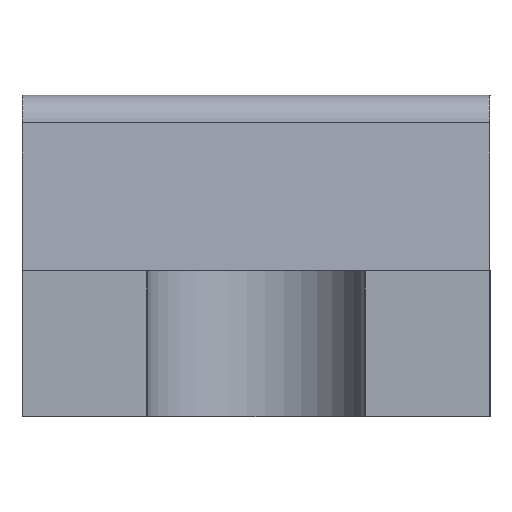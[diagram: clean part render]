
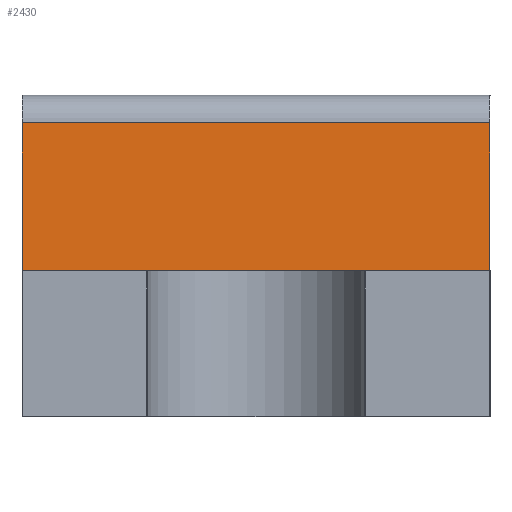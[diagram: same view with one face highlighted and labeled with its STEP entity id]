
A CAD part, left-side view. The second image highlights one B-rep face of the part: STEP entity #2430.
In plain terms, the highlighted planar face has unit normal (-0.999, 0, 0.052).
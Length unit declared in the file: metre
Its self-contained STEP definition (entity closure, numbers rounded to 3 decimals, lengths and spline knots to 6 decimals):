
#156=PLANE('',#2643);
#277=LINE('',#3418,#548);
#285=LINE('',#3440,#556);
#286=LINE('',#3444,#557);
#287=LINE('',#3445,#558);
#548=VECTOR('',#2862,1.);
#556=VECTOR('',#2884,1.);
#557=VECTOR('',#2889,1.);
#558=VECTOR('',#2890,1.);
#903=ORIENTED_EDGE('',*,*,#1556,.F.);
#904=ORIENTED_EDGE('',*,*,#1543,.F.);
#905=ORIENTED_EDGE('',*,*,#1557,.T.);
#906=ORIENTED_EDGE('',*,*,#1554,.T.);
#1543=EDGE_CURVE('',#1881,#1879,#277,.T.);
#1554=EDGE_CURVE('',#1889,#1888,#285,.T.);
#1556=EDGE_CURVE('',#1879,#1888,#286,.T.);
#1557=EDGE_CURVE('',#1881,#1889,#287,.T.);
#1879=VERTEX_POINT('',#3413);
#1881=VERTEX_POINT('',#3417);
#1888=VERTEX_POINT('',#3439);
#1889=VERTEX_POINT('',#3441);
#2134=EDGE_LOOP('',(#903,#904,#905,#906));
#2275=FACE_BOUND('',#2134,.T.);
#2430=ADVANCED_FACE('',(#2275),#156,.T.);
#2643=AXIS2_PLACEMENT_3D('',#3443,#2887,#2888);
#2862=DIRECTION('',(0.,1.,0.));
#2884=DIRECTION('',(0.,1.,0.));
#2887=DIRECTION('',(-0.999,0.,0.052));
#2888=DIRECTION('',(0.052,0.,0.999));
#2889=DIRECTION('',(0.052,0.,0.999));
#2890=DIRECTION('',(0.052,0.,0.999));
#3413=CARTESIAN_POINT('',(-0.001,0.0008,0.0005));
#3417=CARTESIAN_POINT('',(-0.001,-0.0008,0.0005));
#3418=CARTESIAN_POINT('',(-0.001,-0.0008,0.0005));
#3439=CARTESIAN_POINT('',(-0.000974,0.0008,0.001005));
#3440=CARTESIAN_POINT('',(-0.000974,-0.0008,0.001005));
#3441=CARTESIAN_POINT('',(-0.000974,-0.0008,0.001005));
#3443=CARTESIAN_POINT('',(-0.000987,-0.0008,0.000753));
#3444=CARTESIAN_POINT('',(-0.000987,0.0008,0.000753));
#3445=CARTESIAN_POINT('',(-0.000987,-0.0008,0.000753));
